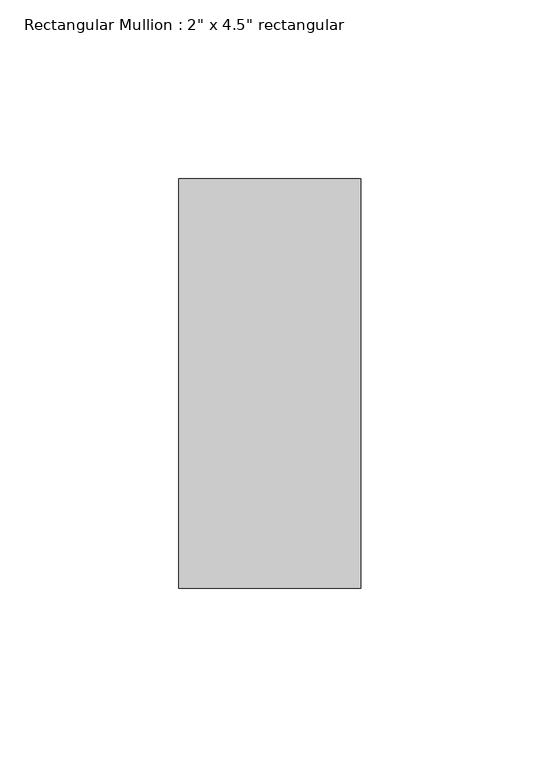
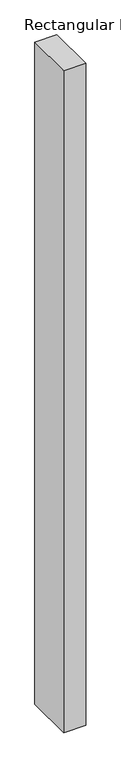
"""IFC4 building model written with IfcOpenShell, lengths in millimetres: member geometry."""

from ifc_helpers import new_model, si_unit, frame, origin, place, context, project, spatial, polyline, outline, extrude, source, transform, mapped, element, save


def member_1bd862b2(model_context):
    return source(origin(), model_context, "Body", "SweptSolid", [
        extrude(outline(polyline([(0.0, 57.15), (0.0, -57.15), (-50.8, -57.15), (-50.8, 57.15), (0.0, 57.15)])), frame((0.0, 0.0, -1613.5061356), z_axis=(0.0, 0.0, 1.0), x_axis=(1.0, 0.0, 0.0)), (0.0, 0.0, 1.0), 1613.5061356),
    ])


if __name__ == "__main__":
    model = new_model("IFC4")
    model_context = context("Model", 3, world=origin())
    ifc_project = project(units=[si_unit("LENGTHUNIT", "METRE", prefix="MILLI")], contexts=[model_context])
    site = spatial("IfcSite", under=ifc_project)
    building = spatial("IfcBuilding", under=site)
    placement = place(None, origin())
    member_shape = member_1bd862b2(model_context)
    element("IfcMember", 1, ObjectType="Rectangular Mullion : 2\" x 4.5\" rectangular", at=placement, inside=building, context=model_context, shape_type="MappedRepresentation", body=[
        mapped(member_shape, transform((0.0, 0.0, 0.0), x_axis=(1.0, 0.0, 0.0), y_axis=(0.0, 1.0, 0.0), z_axis=(0.0, 0.0, 1.0))),
    ])
    save(model, "model.ifc")
